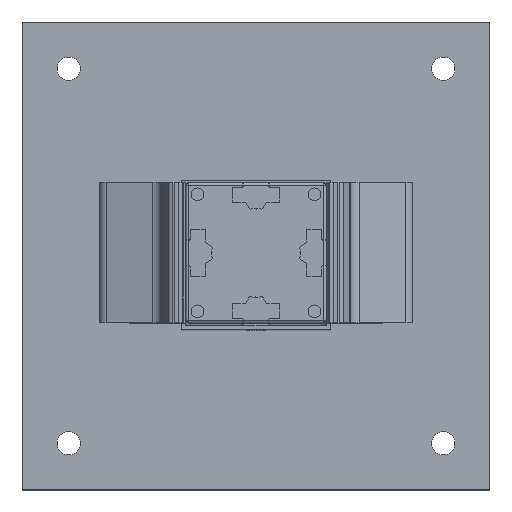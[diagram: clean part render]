
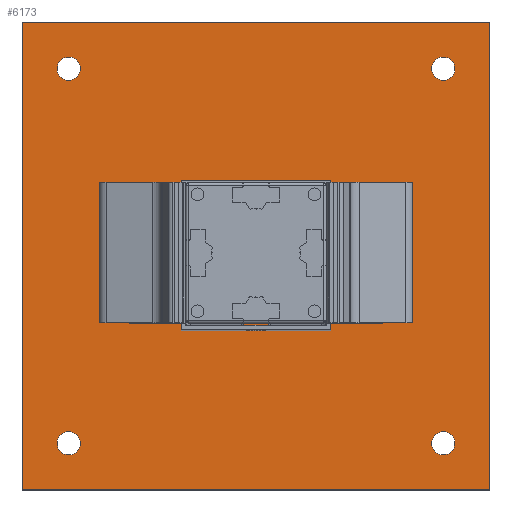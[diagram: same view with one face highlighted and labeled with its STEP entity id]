
A CAD part, top view. The second image highlights one B-rep face of the part: STEP entity #6173.
In plain terms, the highlighted planar face has unit normal (0, 0, 1).
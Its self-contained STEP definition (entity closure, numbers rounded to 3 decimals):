
#5663=CARTESIAN_POINT('',(-30.,-10.0,2.));
#5664=VERTEX_POINT('',#5663);
#5673=CARTESIAN_POINT('',(-32.0,-10.0,2.));
#5674=VERTEX_POINT('',#5673);
#5675=CARTESIAN_POINT('',(-32.0,-10.0,2.));
#5676=DIRECTION('',(1.0,0.0,0.0));
#5677=VECTOR('',#5676,2.);
#5678=LINE('',#5675,#5677);
#5679=EDGE_CURVE('',#5674,#5664,#5678,.T.);
#5705=CARTESIAN_POINT('',(-30.,10.0,2.));
#5706=VERTEX_POINT('',#5705);
#5721=CARTESIAN_POINT('',(-32.0,10.0,2.));
#5722=VERTEX_POINT('',#5721);
#5729=CARTESIAN_POINT('',(-30.,10.0,2.));
#5730=DIRECTION('',(-1.0,0.0,0.0));
#5731=VECTOR('',#5730,2.);
#5732=LINE('',#5729,#5731);
#5733=EDGE_CURVE('',#5706,#5722,#5732,.T.);
#5744=CARTESIAN_POINT('',(-30.,30.,2.));
#5745=VERTEX_POINT('',#5744);
#5746=CARTESIAN_POINT('',(-30.,30.,2.));
#5747=DIRECTION('',(0.0,-1.0,0.0));
#5748=VECTOR('',#5747,20.);
#5749=LINE('',#5746,#5748);
#5750=EDGE_CURVE('',#5745,#5706,#5749,.T.);
#5783=CARTESIAN_POINT('',(-30.0,-30.0,2.));
#5784=VERTEX_POINT('',#5783);
#5791=CARTESIAN_POINT('',(-30.0,-10.,2.));
#5792=DIRECTION('',(0.0,-1.0,0.0));
#5793=VECTOR('',#5792,20.0);
#5794=LINE('',#5791,#5793);
#5795=EDGE_CURVE('',#5664,#5784,#5794,.T.);
#5919=CARTESIAN_POINT('',(-32.0,32.,2.0));
#5920=VERTEX_POINT('',#5919);
#5927=CARTESIAN_POINT('',(-32.0,10.0,2.));
#5928=DIRECTION('',(0.0,1.0,0.0));
#5929=VECTOR('',#5928,22.);
#5930=LINE('',#5927,#5929);
#5931=EDGE_CURVE('',#5722,#5920,#5930,.T.);
#5942=CARTESIAN_POINT('',(-32.0,-32.0,2.0));
#5943=VERTEX_POINT('',#5942);
#5944=CARTESIAN_POINT('',(-32.0,-32.0,2.));
#5945=DIRECTION('',(0.0,1.0,0.0));
#5946=VECTOR('',#5945,22.0);
#5947=LINE('',#5944,#5946);
#5948=EDGE_CURVE('',#5943,#5674,#5947,.T.);
#5965=CARTESIAN_POINT('',(30.0,10.0,2.));
#5966=VERTEX_POINT('',#5965);
#5973=CARTESIAN_POINT('',(32.,10.0,2.));
#5974=VERTEX_POINT('',#5973);
#5975=CARTESIAN_POINT('',(32.,10.0,2.));
#5976=DIRECTION('',(-1.0,0.0,0.0));
#5977=VECTOR('',#5976,2.);
#5978=LINE('',#5975,#5977);
#5979=EDGE_CURVE('',#5974,#5966,#5978,.T.);
#5996=CARTESIAN_POINT('',(30.0,-10.0,2.));
#5997=VERTEX_POINT('',#5996);
#6005=CARTESIAN_POINT('',(32.,-10.0,2.));
#6006=VERTEX_POINT('',#6005);
#6013=CARTESIAN_POINT('',(30.,-10.0,2.));
#6014=DIRECTION('',(1.0,0.0,0.0));
#6015=VECTOR('',#6014,2.);
#6016=LINE('',#6013,#6015);
#6017=EDGE_CURVE('',#5997,#6006,#6016,.T.);
#6022=CARTESIAN_POINT('',(0.,0.0,2.));
#6023=DIRECTION('',(0.0,0.0,1.0));
#6024=DIRECTION('',(1.0,0.0,0.0));
#6025=AXIS2_PLACEMENT_3D('',#6022,#6023,#6024);
#6026=PLANE('',#6025);
#6027=CARTESIAN_POINT('',(-100.0,100.0,2.0));
#6028=VERTEX_POINT('',#6027);
#6029=CARTESIAN_POINT('',(100.0,100.0,2.0));
#6030=VERTEX_POINT('',#6029);
#6031=CARTESIAN_POINT('',(-100.0,100.0,2.0));
#6032=DIRECTION('',(1.0,0.0,0.0));
#6033=VECTOR('',#6032,200.0);
#6034=LINE('',#6031,#6033);
#6035=EDGE_CURVE('',#6028,#6030,#6034,.T.);
#6036=ORIENTED_EDGE('',*,*,#6035,.F.);
#6037=CARTESIAN_POINT('',(-100.0,-100.0,2.0));
#6038=VERTEX_POINT('',#6037);
#6039=CARTESIAN_POINT('',(-100.0,-100.0,2.0));
#6040=DIRECTION('',(0.0,1.0,0.0));
#6041=VECTOR('',#6040,200.0);
#6042=LINE('',#6039,#6041);
#6043=EDGE_CURVE('',#6038,#6028,#6042,.T.);
#6044=ORIENTED_EDGE('',*,*,#6043,.F.);
#6045=CARTESIAN_POINT('',(100.0,-100.0,2.0));
#6046=VERTEX_POINT('',#6045);
#6047=CARTESIAN_POINT('',(100.0,-100.0,2.0));
#6048=DIRECTION('',(-1.0,0.0,0.0));
#6049=VECTOR('',#6048,200.0);
#6050=LINE('',#6047,#6049);
#6051=EDGE_CURVE('',#6046,#6038,#6050,.T.);
#6052=ORIENTED_EDGE('',*,*,#6051,.F.);
#6053=CARTESIAN_POINT('',(100.0,100.0,2.0));
#6054=DIRECTION('',(0.0,-1.0,0.0));
#6055=VECTOR('',#6054,200.0);
#6056=LINE('',#6053,#6055);
#6057=EDGE_CURVE('',#6030,#6046,#6056,.T.);
#6058=ORIENTED_EDGE('',*,*,#6057,.F.);
#6059=EDGE_LOOP('',(#6036,#6044,#6052,#6058));
#6060=FACE_OUTER_BOUND('',#6059,.T.);
#6061=ORIENTED_EDGE('',*,*,#5795,.T.);
#6062=CARTESIAN_POINT('',(30.0,-30.0,2.));
#6063=VERTEX_POINT('',#6062);
#6064=CARTESIAN_POINT('',(-30.0,-30.0,2.));
#6065=DIRECTION('',(1.0,0.0,0.0));
#6066=VECTOR('',#6065,60.0);
#6067=LINE('',#6064,#6066);
#6068=EDGE_CURVE('',#5784,#6063,#6067,.T.);
#6069=ORIENTED_EDGE('',*,*,#6068,.T.);
#6070=CARTESIAN_POINT('',(30.0,-30.0,2.));
#6071=DIRECTION('',(0.0,1.0,0.0));
#6072=VECTOR('',#6071,20.0);
#6073=LINE('',#6070,#6072);
#6074=EDGE_CURVE('',#6063,#5997,#6073,.T.);
#6075=ORIENTED_EDGE('',*,*,#6074,.T.);
#6076=ORIENTED_EDGE('',*,*,#6017,.T.);
#6077=CARTESIAN_POINT('',(32.,-32.0,2.0));
#6078=VERTEX_POINT('',#6077);
#6079=CARTESIAN_POINT('',(32.,-10.0,2.));
#6080=DIRECTION('',(0.0,-1.0,0.0));
#6081=VECTOR('',#6080,22.0);
#6082=LINE('',#6079,#6081);
#6083=EDGE_CURVE('',#6006,#6078,#6082,.T.);
#6084=ORIENTED_EDGE('',*,*,#6083,.T.);
#6085=CARTESIAN_POINT('',(32.,-32.0,2.));
#6086=DIRECTION('',(-1.0,0.0,0.0));
#6087=VECTOR('',#6086,64.);
#6088=LINE('',#6085,#6087);
#6089=EDGE_CURVE('',#6078,#5943,#6088,.T.);
#6090=ORIENTED_EDGE('',*,*,#6089,.T.);
#6091=ORIENTED_EDGE('',*,*,#5948,.T.);
#6092=ORIENTED_EDGE('',*,*,#5679,.T.);
#6093=EDGE_LOOP('',(#6061,#6069,#6075,#6076,#6084,#6090,#6091,#6092));
#6094=FACE_BOUND('',#6093,.T.);
#6095=ORIENTED_EDGE('',*,*,#5733,.T.);
#6096=ORIENTED_EDGE('',*,*,#5931,.T.);
#6097=CARTESIAN_POINT('',(32.,32.,2.0));
#6098=VERTEX_POINT('',#6097);
#6099=CARTESIAN_POINT('',(-32.0,32.,2.));
#6100=DIRECTION('',(1.0,0.0,0.0));
#6101=VECTOR('',#6100,64.);
#6102=LINE('',#6099,#6101);
#6103=EDGE_CURVE('',#5920,#6098,#6102,.T.);
#6104=ORIENTED_EDGE('',*,*,#6103,.T.);
#6105=CARTESIAN_POINT('',(32.,32.,2.));
#6106=DIRECTION('',(0.0,-1.0,0.0));
#6107=VECTOR('',#6106,22.);
#6108=LINE('',#6105,#6107);
#6109=EDGE_CURVE('',#6098,#5974,#6108,.T.);
#6110=ORIENTED_EDGE('',*,*,#6109,.T.);
#6111=ORIENTED_EDGE('',*,*,#5979,.T.);
#6112=CARTESIAN_POINT('',(30.0,30.0,2.));
#6113=VERTEX_POINT('',#6112);
#6114=CARTESIAN_POINT('',(30.0,10.0,2.));
#6115=DIRECTION('',(0.0,1.0,0.0));
#6116=VECTOR('',#6115,20.0);
#6117=LINE('',#6114,#6116);
#6118=EDGE_CURVE('',#5966,#6113,#6117,.T.);
#6119=ORIENTED_EDGE('',*,*,#6118,.T.);
#6120=CARTESIAN_POINT('',(30.0,30.0,2.));
#6121=DIRECTION('',(-1.0,0.0,0.0));
#6122=VECTOR('',#6121,60.);
#6123=LINE('',#6120,#6122);
#6124=EDGE_CURVE('',#6113,#5745,#6123,.T.);
#6125=ORIENTED_EDGE('',*,*,#6124,.T.);
#6126=ORIENTED_EDGE('',*,*,#5750,.T.);
#6127=EDGE_LOOP('',(#6095,#6096,#6104,#6110,#6111,#6119,#6125,#6126));
#6128=FACE_BOUND('',#6127,.T.);
#6129=CARTESIAN_POINT('',(85.0,80.0,2.0));
#6130=VERTEX_POINT('',#6129);
#6131=CARTESIAN_POINT('',(80.0,80.0,2.));
#6132=DIRECTION('',(0.0,0.0,-1.0));
#6133=DIRECTION('',(1.0,0.0,0.0));
#6134=AXIS2_PLACEMENT_3D('',#6131,#6132,#6133);
#6135=CIRCLE('',#6134,5.0);
#6136=EDGE_CURVE('',#6130,#6130,#6135,.T.);
#6137=ORIENTED_EDGE('',*,*,#6136,.T.);
#6138=EDGE_LOOP('',(#6137));
#6139=FACE_BOUND('',#6138,.T.);
#6140=CARTESIAN_POINT('',(85.0,-80.0,2.0));
#6141=VERTEX_POINT('',#6140);
#6142=CARTESIAN_POINT('',(80.0,-80.0,2.));
#6143=DIRECTION('',(0.0,0.0,-1.0));
#6144=DIRECTION('',(1.0,0.0,0.0));
#6145=AXIS2_PLACEMENT_3D('',#6142,#6143,#6144);
#6146=CIRCLE('',#6145,5.0);
#6147=EDGE_CURVE('',#6141,#6141,#6146,.T.);
#6148=ORIENTED_EDGE('',*,*,#6147,.T.);
#6149=EDGE_LOOP('',(#6148));
#6150=FACE_BOUND('',#6149,.T.);
#6151=CARTESIAN_POINT('',(-75.0,-80.0,2.0));
#6152=VERTEX_POINT('',#6151);
#6153=CARTESIAN_POINT('',(-80.0,-80.0,2.));
#6154=DIRECTION('',(0.0,0.0,-1.0));
#6155=DIRECTION('',(1.0,0.0,0.0));
#6156=AXIS2_PLACEMENT_3D('',#6153,#6154,#6155);
#6157=CIRCLE('',#6156,5.0);
#6158=EDGE_CURVE('',#6152,#6152,#6157,.T.);
#6159=ORIENTED_EDGE('',*,*,#6158,.T.);
#6160=EDGE_LOOP('',(#6159));
#6161=FACE_BOUND('',#6160,.T.);
#6162=CARTESIAN_POINT('',(-75.0,80.0,2.0));
#6163=VERTEX_POINT('',#6162);
#6164=CARTESIAN_POINT('',(-80.0,80.0,2.));
#6165=DIRECTION('',(0.0,0.0,-1.0));
#6166=DIRECTION('',(1.0,0.0,0.0));
#6167=AXIS2_PLACEMENT_3D('',#6164,#6165,#6166);
#6168=CIRCLE('',#6167,5.0);
#6169=EDGE_CURVE('',#6163,#6163,#6168,.T.);
#6170=ORIENTED_EDGE('',*,*,#6169,.T.);
#6171=EDGE_LOOP('',(#6170));
#6172=FACE_BOUND('',#6171,.T.);
#6173=ADVANCED_FACE('',(#6060,#6094,#6128,#6139,#6150,#6161,#6172),#6026,.T.);
